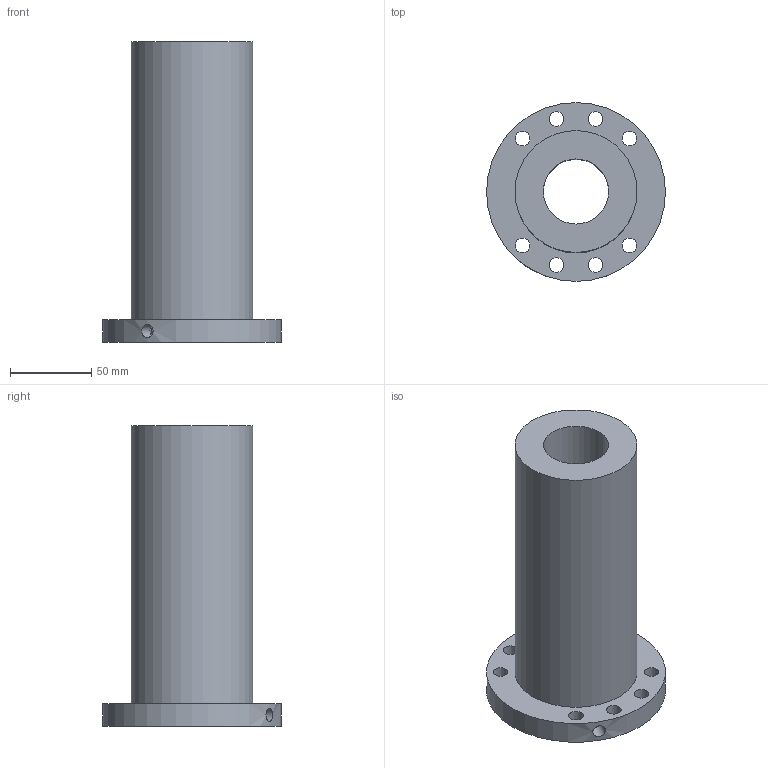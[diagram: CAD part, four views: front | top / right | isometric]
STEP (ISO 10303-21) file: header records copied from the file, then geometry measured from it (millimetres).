
FILE_DESCRIPTION(/* description */ (''),/* implementation_level */ '2;1');
FILE_NAME(/* name */ '40-12K5_7144',/* time_stamp */ '2007-10-15T12:53:57+08:00',/* author */ (''),/* organization */ (''),/* preprocessor_version */ 'ST-DEVELOPER v11',/* originating_system */ 'UGS - NX 5.0',/* authorisation */ '');
FILE_SCHEMA (('CONFIG_CONTROL_DESIGN'));
Length unit declared in the file: millimetre
Products named in the file (1): 40-12K5_7144
Bounding box: 110 x 110 x 185 mm (x, y, z)
Volume: 647689.6 mm3; surface area: 87685.2 mm2
Topology: 1 solids, 1 shells, 17 faces, 40 edges, 27 vertices
Faces by surface type: cylinder 13, plane 4
Full cylindrical faces by diameter (mm): 6 x1, 8 x1, 9 x8, 40 x1, 75 x1, 110 x1
Entity records: 668 total; most frequent: CARTESIAN_POINT 184, DIRECTION 84, FACE_BOUND 52, EDGE_LOOP 52, ORIENTED_EDGE 52, AXIS2_PLACEMENT_3D 42, VERTEX_POINT 26, EDGE_CURVE 26
